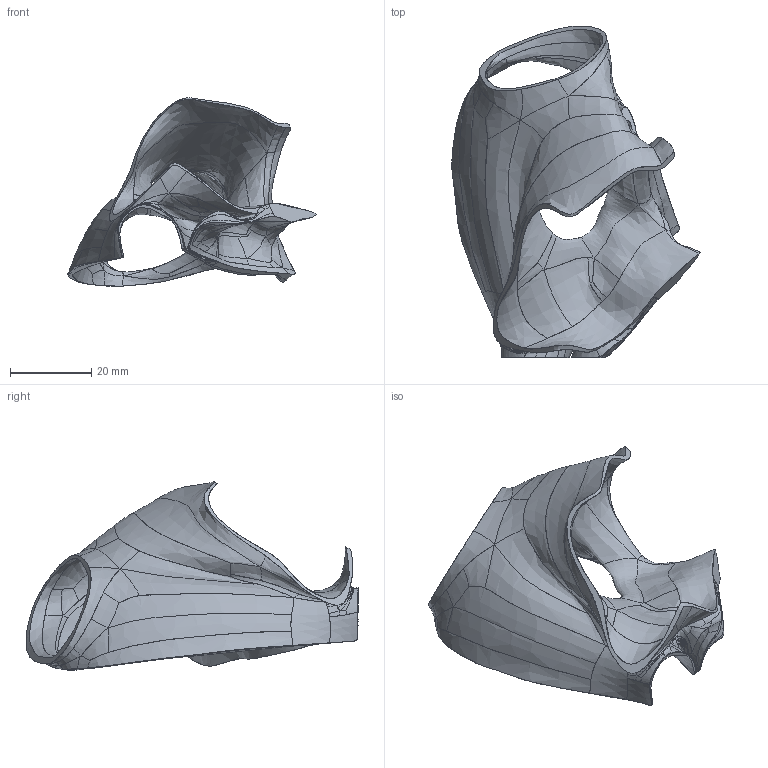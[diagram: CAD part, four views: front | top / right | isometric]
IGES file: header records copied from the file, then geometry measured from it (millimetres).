
Global section: file name: C:\FDA Main\FDA-Septal-Models\9667041\9667041.phase.70.igs; native system: Rhinoceros ( Mar  9 2011 ); preprocessor: Trout Lake IGES 012 Mar  9 2011; date: 120607.042913; units: millimetre
Bounding box: 61.21 x 81.76 x 46.4 mm (x, y, z)
Surface area: 13431.6 mm2 (no closed solid volume)
Topology: 0 solids, 0 shells, 327 faces, 1306 edges, 1304 vertices
Faces by surface type: bspline 327
